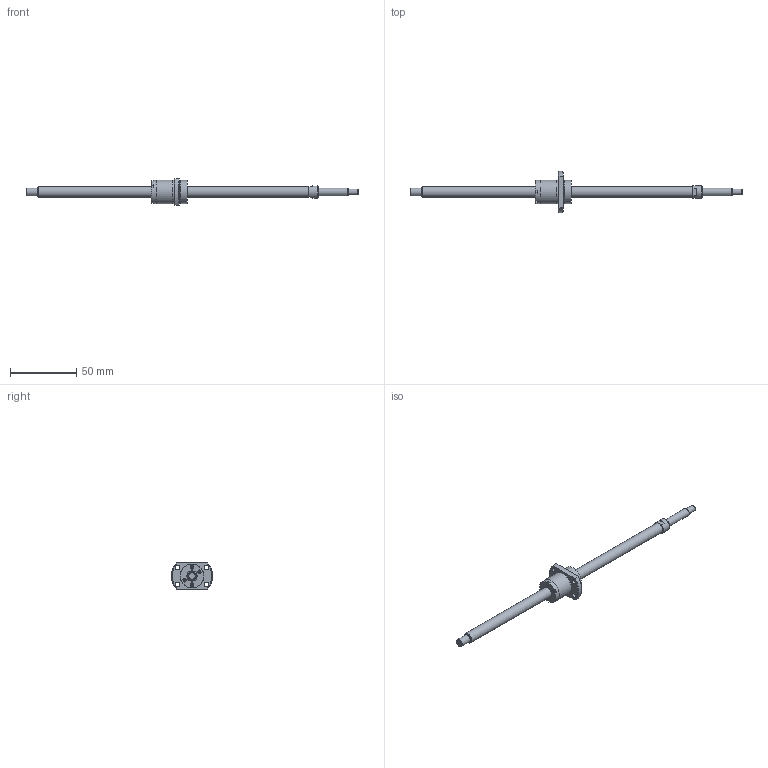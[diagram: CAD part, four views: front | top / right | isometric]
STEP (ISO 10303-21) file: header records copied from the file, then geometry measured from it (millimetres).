
FILE_DESCRIPTION(/* description */ ('STEP AP214'),/* implementation_level */ '2;1');
FILE_NAME(/* name */ 'SG0812-198R250C5C0X(85.5)',/* time_stamp */ '2026-07-23T22:53:13+02:00',/* author */ ('License CC BY-ND 4.0'),/* organization */ ('CADENAS'),/* preprocessor_version */ 'ST-DEVELOPER v20',/* originating_system */ 'PARTsolutions',/* authorisation */ ' ');
FILE_SCHEMA (('AUTOMOTIVE_DESIGN {1 0 10303 214 3 1 1}'));
Length unit declared in the file: millimetre
Products named in the file (3): SG0812-198R250C5C0X(85.5); SG0812-198R250C5C_shaft; SG0812 C5_nut
Assembly tree (2 placements, depth 2):
  SG0812-198R250C5C0X(85.5)
    SG0812-198R250C5C_shaft
    SG0812 C5_nut
Bounding box: 250 x 30.91 x 20 mm (x, y, z)
Volume: 18209.8 mm3; surface area: 9686.7 mm2
Topology: 2 solids, 2 shells, 103 faces, 236 edges, 153 vertices
Faces by surface type: plane 64, cylinder 25, cone 13, torus 1
Full cylindrical faces by diameter (mm): 2.25 x4, 3.4 x4, 4.5 x1, 6 x2, 8 x2, 9.5 x1, 17.5 x3, 18 x2
Entity records: 2841 total; most frequent: CARTESIAN_POINT 486, DIRECTION 484, ORIENTED_EDGE 410, EDGE_CURVE 205, AXIS2_PLACEMENT_3D 181, EDGE_LOOP 158, FACE_BOUND 158, VERTEX_POINT 151
